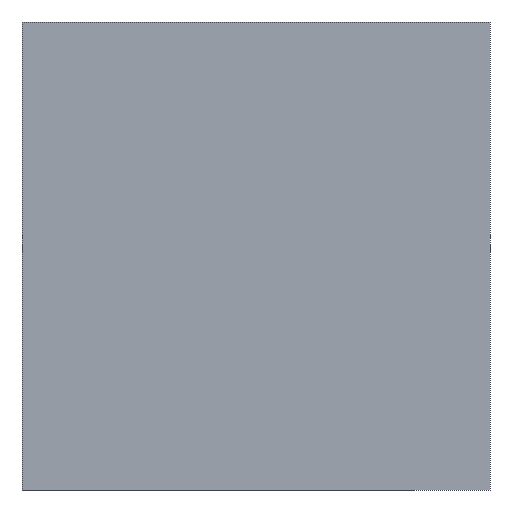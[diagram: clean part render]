
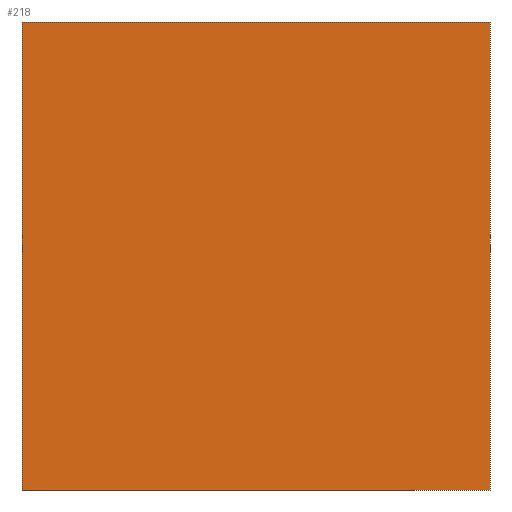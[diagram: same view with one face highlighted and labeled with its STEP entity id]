
A CAD part, left-side view. The second image highlights one B-rep face of the part: STEP entity #218.
In plain terms, the highlighted planar face has unit normal (-1, 0, 0).
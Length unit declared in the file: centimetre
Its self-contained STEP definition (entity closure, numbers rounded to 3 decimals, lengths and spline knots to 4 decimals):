
#1 = CARTESIAN_POINT ( 'NONE',  ( 0., 1000., 1000. ) ) ;
#3 = FACE_OUTER_BOUND ( 'NONE', #216, .T. ) ;
#37 = CARTESIAN_POINT ( 'NONE',  ( 0., 1000., 0. ) ) ;
#45 = LINE ( 'NONE', #323, #368 ) ;
#48 = ORIENTED_EDGE ( 'NONE', *, *, #195, .F. ) ;
#49 = CARTESIAN_POINT ( 'NONE',  ( 0., 0., 1000. ) ) ;
#52 = DIRECTION ( 'NONE',  ( 0., -1., 0. ) ) ;
#56 = ORIENTED_EDGE ( 'NONE', *, *, #352, .T. ) ;
#70 = CARTESIAN_POINT ( 'NONE',  ( 0., 0., 0. ) ) ;
#90 = AXIS2_PLACEMENT_3D ( 'NONE', #417, #144, #285 ) ;
#95 = VERTEX_POINT ( 'NONE', #340 ) ;
#101 = VECTOR ( 'NONE', #52, 100. ) ;
#112 = VERTEX_POINT ( 'NONE', #70 ) ;
#144 = DIRECTION ( 'NONE',  ( 1., 0., 0. ) ) ;
#149 = VECTOR ( 'NONE', #185, 100. ) ;
#173 = CARTESIAN_POINT ( 'NONE',  ( 0., 0., 1000. ) ) ;
#178 = LINE ( 'NONE', #173, #149 ) ;
#185 = DIRECTION ( 'NONE',  ( 0., 0., -1. ) ) ;
#195 = EDGE_CURVE ( 'NONE', #296, #112, #178, .T. ) ;
#216 = EDGE_LOOP ( 'NONE', ( #337, #48, #361, #56 ) ) ;
#218 = ADVANCED_FACE ( 'NONE', ( #3 ), #318, .F. ) ;
#245 = DIRECTION ( 'NONE',  ( 0., 0., -1. ) ) ;
#285 = DIRECTION ( 'NONE',  ( 0., 0., -1. ) ) ;
#296 = VERTEX_POINT ( 'NONE', #49 ) ;
#306 = EDGE_CURVE ( 'NONE', #95, #296, #330, .T. ) ;
#317 = LINE ( 'NONE', #1, #333 ) ;
#318 = PLANE ( 'NONE',  #90 ) ;
#323 = CARTESIAN_POINT ( 'NONE',  ( 0., 1000., 0. ) ) ;
#330 = LINE ( 'NONE', #365, #101 ) ;
#333 = VECTOR ( 'NONE', #245, 100. ) ;
#337 = ORIENTED_EDGE ( 'NONE', *, *, #433, .T. ) ;
#340 = CARTESIAN_POINT ( 'NONE',  ( 0., 1000., 1000. ) ) ;
#347 = VERTEX_POINT ( 'NONE', #37 ) ;
#352 = EDGE_CURVE ( 'NONE', #95, #347, #317, .T. ) ;
#361 = ORIENTED_EDGE ( 'NONE', *, *, #306, .F. ) ;
#365 = CARTESIAN_POINT ( 'NONE',  ( 0., 1000., 1000. ) ) ;
#368 = VECTOR ( 'NONE', #424, 100. ) ;
#417 = CARTESIAN_POINT ( 'NONE',  ( 0., 1000., 1000. ) ) ;
#424 = DIRECTION ( 'NONE',  ( 0., -1., 0. ) ) ;
#433 = EDGE_CURVE ( 'NONE', #347, #112, #45, .T. ) ;
